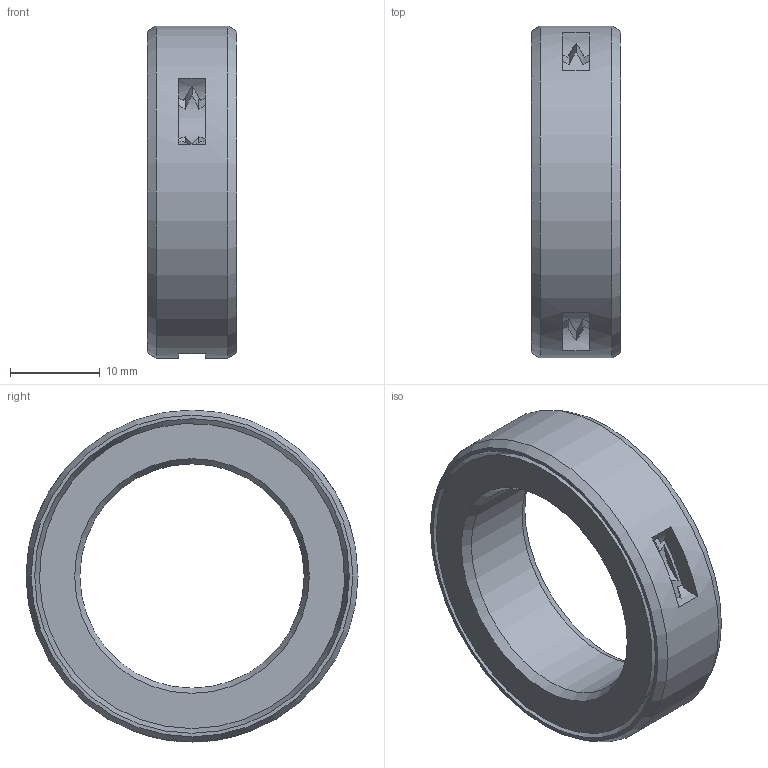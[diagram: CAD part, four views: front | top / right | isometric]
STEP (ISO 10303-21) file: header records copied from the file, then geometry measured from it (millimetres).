
FILE_DESCRIPTION(/* description */ (''),/* implementation_level */ '2;1');
FILE_NAME(/* name */ '301349 M 25x37x10.stp',/* time_stamp */ '2016-12-15T11:18:32+01:00',/* author */ (''),/* organization */ (''),/* preprocessor_version */ 'ST-DEVELOPER v15',/* originating_system */ 'SIEMENS PLM Software NX 8.5',/* authorisation */ '');
FILE_SCHEMA (('CONFIG_CONTROL_DESIGN'));
Length unit declared in the file: millimetre
Products named in the file (1): ATE0000124_01
Bounding box: 10 x 37 x 37 mm (x, y, z)
Volume: 4963.2 mm3; surface area: 5250.4 mm2
Topology: 2 solids, 2 shells, 49 faces, 143 edges, 94 vertices
Faces by surface type: cone 22, plane 16, cylinder 11
Full cylindrical faces by diameter (mm): 25 x1, 37 x1
Entity records: 1626 total; most frequent: CARTESIAN_POINT 396, ORIENTED_EDGE 240, DIRECTION 234, EDGE_CURVE 120, AXIS2_PLACEMENT_3D 114, VERTEX_POINT 84, CIRCLE 66, EDGE_LOOP 64
